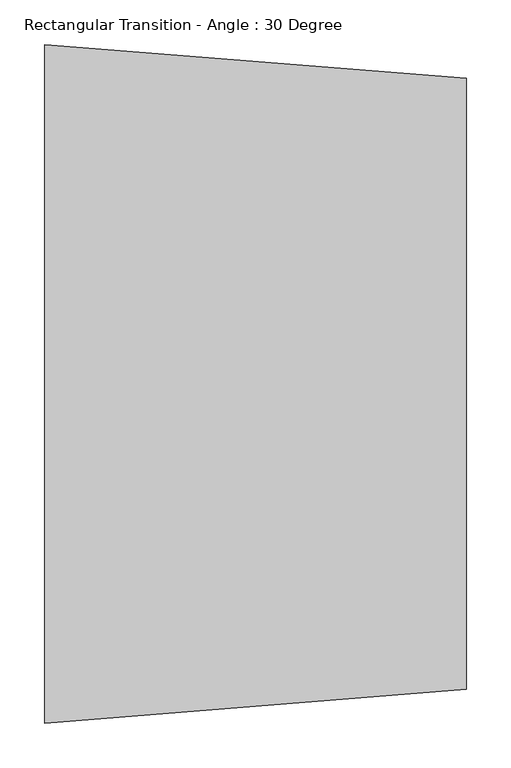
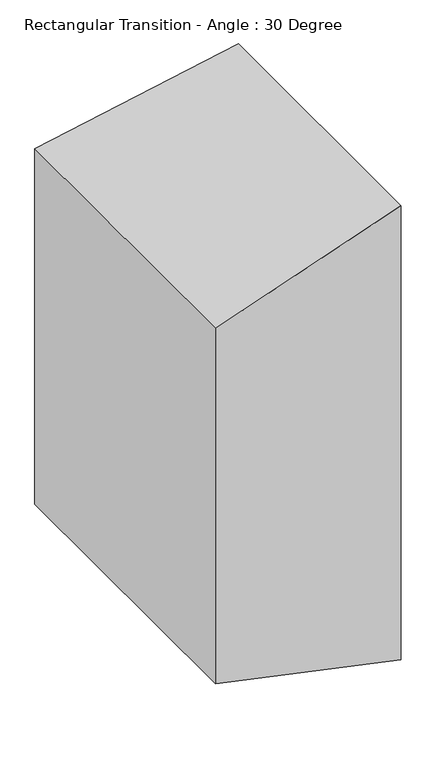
"""IFC4 building model written with IfcOpenShell, lengths in millimetres: duct fitting geometry, Rectangular Transition - Angle : 30 Degree."""

from ifc_helpers import new_model, si_unit, origin, place, context, project, spatial, faceted_brep, source, transform, mapped, element, save


def rectangular_transition_angle_30_degree_99f9bb98(model_context):
    return source(origin(), model_context, "Body", "Brep", [
        faceted_brep([(473.9704526, -342.9, 584.2), (473.9704526, -342.9, -584.2), (473.9704526, 342.9, -584.2), (473.9704526, 342.9, 584.2), (0.0, -381.0, 457.2), (0.0, 381.0, 457.2), (0.0, 381.0, -457.2), (0.0, -381.0, -457.2)], [[[0, 1, 2, 3]], [[4, 5, 6, 7]], [[4, 7, 1, 0]], [[7, 6, 2, 1]], [[6, 5, 3, 2]], [[5, 4, 0, 3]]]),
    ])


if __name__ == "__main__":
    model = new_model("IFC4")
    model_context = context("Model", 3, world=origin())
    ifc_project = project(units=[si_unit("LENGTHUNIT", "METRE", prefix="MILLI")], contexts=[model_context])
    site = spatial("IfcSite", under=ifc_project)
    building = spatial("IfcBuilding", under=site)
    placement = place(None, origin())
    rectangular_transition_angle_30_degree_shape = rectangular_transition_angle_30_degree_99f9bb98(model_context)
    element("IfcDuctFitting", 1, ObjectType="Rectangular Transition - Angle : 30 Degree", at=placement, inside=building, context=model_context, shape_type="MappedRepresentation", body=[
        mapped(rectangular_transition_angle_30_degree_shape, transform((0.0, 0.0, 0.0), x_axis=(1.0, 0.0, 0.0), y_axis=(0.0, 1.0, 0.0), z_axis=(0.0, 0.0, 1.0))),
    ])
    save(model, "model.ifc")
